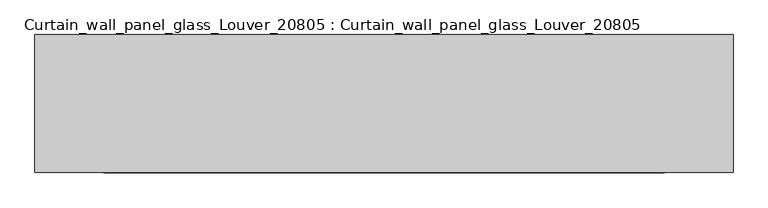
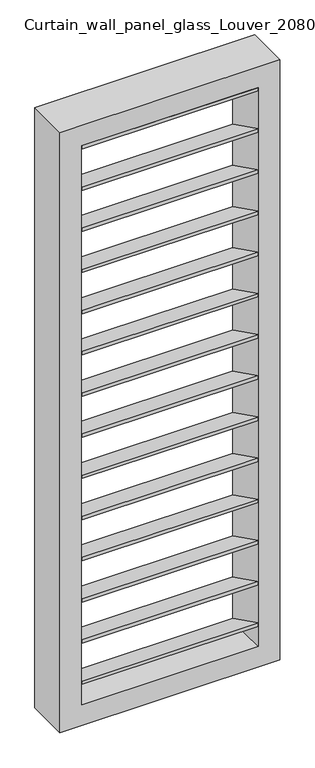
"""IFC4 building model written with IfcOpenShell, lengths in millimetres: plate geometry, Curtain_wall_panel_glass_Louver_20805 : Curtain_wall_panel_glass_Louver_20805."""

from ifc_helpers import new_model, si_unit, frame, origin, place, context, project, spatial, polyline, outline, extrude, source, transform, mapped, element, save


def curtain_wall_panel_glass_louver_20805_curtain_wall_panel_de26d37e(model_context):
    return source(origin(), model_context, "Body", "SweptSolid", [
        extrude(outline(polyline([(-200.0, 199.3849981), (-200.0, 216.1349309), (0.0, 116.7499328), (0.0, 100.0), (-200.0, 199.3849981)])), frame((-406.2500001, 0.0, 0.0), z_axis=(1.0, 0.0, 0.0), x_axis=(0.0, 1.0, 0.0)), (0.0, 0.0, 1.0), 812.5000001),
        extrude(outline(polyline([(-200.0, 2808.2500672), (-200.0, 2825.0), (0.0, 2725.6150019), (0.0, 2708.8650691), (-200.0, 2808.2500672)])), frame((-406.2500001, 0.0, 0.0), z_axis=(1.0, 0.0, 0.0), x_axis=(0.0, 1.0, 0.0)), (0.0, 0.0, 1.0), 812.5000001),
        extrude(outline(polyline([(-200.0, 400.0669265), (-200.0, 416.8168593), (0.0, 317.4318612), (0.0, 300.6819284), (-200.0, 400.0669265)])), frame((-406.2500001, 0.0, 0.0), z_axis=(1.0, 0.0, 0.0), x_axis=(0.0, 1.0, 0.0)), (0.0, 0.0, 1.0), 812.5000001),
        extrude(outline(polyline([(-200.0, 600.7488549), (-200.0, 617.4987877), (0.0, 518.1137896), (0.0, 501.3638568), (-200.0, 600.7488549)])), frame((-406.2500001, 0.0, 0.0), z_axis=(1.0, 0.0, 0.0), x_axis=(0.0, 1.0, 0.0)), (0.0, 0.0, 1.0), 812.5000001),
        extrude(outline(polyline([(-200.0, 801.4307833), (-200.0, 818.1807161), (0.0, 718.795718), (0.0, 702.0457852), (-200.0, 801.4307833)])), frame((-406.2500001, 0.0, 0.0), z_axis=(1.0, 0.0, 0.0), x_axis=(0.0, 1.0, 0.0)), (0.0, 0.0, 1.0), 812.5000001),
        extrude(outline(polyline([(-200.0, 1002.1127117), (-200.0, 1018.8626445), (0.0, 919.4776464), (0.0, 902.7277136), (-200.0, 1002.1127117)])), frame((-406.2500001, 0.0, 0.0), z_axis=(1.0, 0.0, 0.0), x_axis=(0.0, 1.0, 0.0)), (0.0, 0.0, 1.0), 812.5000001),
        extrude(outline(polyline([(-200.0, 1202.79464), (-200.0, 1219.5445729), (0.0, 1120.1595748), (0.0, 1103.4096419), (-200.0, 1202.79464)])), frame((-406.2500001, 0.0, 0.0), z_axis=(1.0, 0.0, 0.0), x_axis=(0.0, 1.0, 0.0)), (0.0, 0.0, 1.0), 812.5000001),
        extrude(outline(polyline([(-200.0, 1403.4765684), (-200.0, 1420.2265013), (0.0, 1320.8415032), (0.0, 1304.0915703), (-200.0, 1403.4765684)])), frame((-406.2500001, 0.0, 0.0), z_axis=(1.0, 0.0, 0.0), x_axis=(0.0, 1.0, 0.0)), (0.0, 0.0, 1.0), 812.5000001),
        extrude(outline(polyline([(-200.0, 1604.1584968), (-200.0, 1620.9084297), (0.0, 1521.5234316), (0.0, 1504.7734987), (-200.0, 1604.1584968)])), frame((-406.2500001, 0.0, 0.0), z_axis=(1.0, 0.0, 0.0), x_axis=(0.0, 1.0, 0.0)), (0.0, 0.0, 1.0), 812.5000001),
        extrude(outline(polyline([(-200.0, 1804.8404252), (-200.0, 1821.5903581), (0.0, 1722.20536), (0.0, 1705.4554271), (-200.0, 1804.8404252)])), frame((-406.2500001, 0.0, 0.0), z_axis=(1.0, 0.0, 0.0), x_axis=(0.0, 1.0, 0.0)), (0.0, 0.0, 1.0), 812.5000001),
        extrude(outline(polyline([(-200.0, 2005.5223536), (-200.0, 2022.2722864), (0.0, 1922.8872883), (0.0, 1906.1373555), (-200.0, 2005.5223536)])), frame((-406.2500001, 0.0, 0.0), z_axis=(1.0, 0.0, 0.0), x_axis=(0.0, 1.0, 0.0)), (0.0, 0.0, 1.0), 812.5000001),
        extrude(outline(polyline([(-200.0, 2206.204282), (-200.0, 2222.9542148), (0.0, 2123.5692167), (0.0, 2106.8192839), (-200.0, 2206.204282)])), frame((-406.2500001, 0.0, 0.0), z_axis=(1.0, 0.0, 0.0), x_axis=(0.0, 1.0, 0.0)), (0.0, 0.0, 1.0), 812.5000001),
        extrude(outline(polyline([(-200.0, 2406.8862104), (-200.0, 2423.6361432), (0.0, 2324.2511451), (0.0, 2307.5012123), (-200.0, 2406.8862104)])), frame((-406.2500001, 0.0, 0.0), z_axis=(1.0, 0.0, 0.0), x_axis=(0.0, 1.0, 0.0)), (0.0, 0.0, 1.0), 812.5000001),
        extrude(outline(polyline([(-200.0, 2607.5681388), (-200.0, 2624.3180716), (0.0, 2524.9330735), (0.0, 2508.1831407), (-200.0, 2607.5681388)])), frame((-406.2500001, 0.0, 0.0), z_axis=(1.0, 0.0, 0.0), x_axis=(0.0, 1.0, 0.0)), (0.0, 0.0, 1.0), 812.5000001),
        extrude(outline(polyline([(2925.0, -506.2500001), (0.0, -506.2500001), (0.0, 506.2500001), (2925.0, 506.2500001), (2925.0, -506.2500001)]), holes=[polyline([(2825.0, -406.2500001), (2825.0, 406.2500001), (100.0, 406.2500001), (100.0, -406.2500001), (2825.0, -406.2500001)])]), frame((0.0, -200.0, 0.0), z_axis=(0.0, 1.0, 0.0), x_axis=(0.0, 0.0, 1.0)), (0.0, 0.0, 1.0), 200.0),
    ])


if __name__ == "__main__":
    model = new_model("IFC4")
    model_context = context("Model", 3, world=origin())
    ifc_project = project(units=[si_unit("LENGTHUNIT", "METRE", prefix="MILLI")], contexts=[model_context])
    site = spatial("IfcSite", under=ifc_project)
    building = spatial("IfcBuilding", under=site)
    placement = place(None, origin())
    curtain_wall_panel_glass_louver_20805_curtain_wall_panel_shape = curtain_wall_panel_glass_louver_20805_curtain_wall_panel_de26d37e(model_context)
    element("IfcPlate", 1, ObjectType="Curtain_wall_panel_glass_Louver_20805 : Curtain_wall_panel_glass_Louver_20805", at=placement, inside=building, context=model_context, shape_type="MappedRepresentation", body=[
        mapped(curtain_wall_panel_glass_louver_20805_curtain_wall_panel_shape, transform((0.0, 0.0, 0.0), x_axis=(1.0, 0.0, 0.0), y_axis=(0.0, 1.0, 0.0), z_axis=(0.0, 0.0, 1.0))),
    ])
    save(model, "model.ifc")
